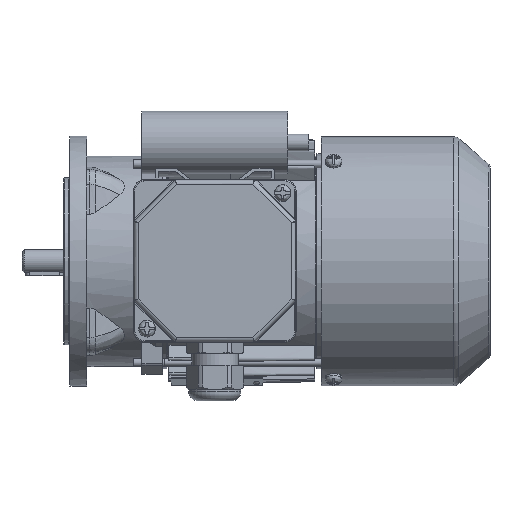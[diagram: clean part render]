
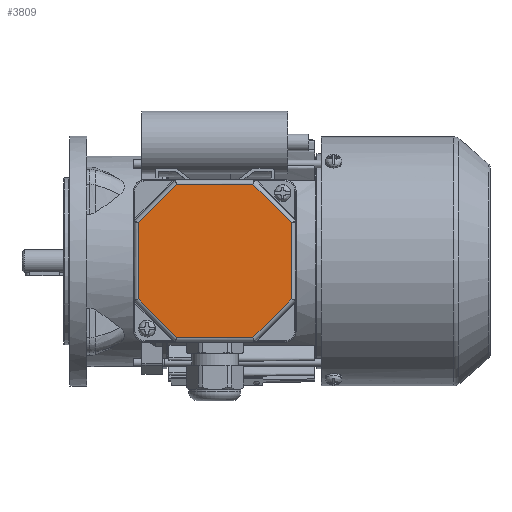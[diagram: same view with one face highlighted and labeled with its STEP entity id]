
A CAD part, top view. The second image highlights one B-rep face of the part: STEP entity #3809.
In plain terms, the highlighted planar face has unit normal (0, 0, 1).
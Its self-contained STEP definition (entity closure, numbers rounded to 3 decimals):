
#3809 = ADVANCED_FACE( '', ( #8244 ), #8245, .T. );
#8244 = FACE_OUTER_BOUND( '', #17796, .T. );
#8245 = PLANE( '', #17797 );
#17796 = EDGE_LOOP( '', ( #32660, #32661, #32662, #32663, #32664, #32665, #32666, #32667 ) );
#17797 = AXIS2_PLACEMENT_3D( '', #32668, #32669, #32670 );
#32660 = ORIENTED_EDGE( '', *, *, #45390, .T. );
#32661 = ORIENTED_EDGE( '', *, *, #45391, .T. );
#32662 = ORIENTED_EDGE( '', *, *, #45392, .T. );
#32663 = ORIENTED_EDGE( '', *, *, #45393, .T. );
#32664 = ORIENTED_EDGE( '', *, *, #45394, .T. );
#32665 = ORIENTED_EDGE( '', *, *, #45395, .T. );
#32666 = ORIENTED_EDGE( '', *, *, #45385, .T. );
#32667 = ORIENTED_EDGE( '', *, *, #44338, .T. );
#32668 = CARTESIAN_POINT( '', ( -39., 39., 12. ) );
#32669 = DIRECTION( '', ( 0., 0., 1. ) );
#32670 = DIRECTION( '', ( 1., 0., 0. ) );
#44338 = EDGE_CURVE( '', #53284, #53282, #53285, .T. );
#45385 = EDGE_CURVE( '', #54810, #53284, #54811, .F. );
#45390 = EDGE_CURVE( '', #53282, #54817, #54818, .F. );
#45391 = EDGE_CURVE( '', #54817, #54819, #54820, .T. );
#45392 = EDGE_CURVE( '', #54819, #54821, #54822, .F. );
#45393 = EDGE_CURVE( '', #54821, #53687, #54823, .T. );
#45394 = EDGE_CURVE( '', #53687, #54824, #54825, .F. );
#45395 = EDGE_CURVE( '', #54824, #54810, #54826, .T. );
#53282 = VERTEX_POINT( '', #67390 );
#53284 = VERTEX_POINT( '', #67392 );
#53285 = LINE( '', #67393, #67394 );
#53687 = VERTEX_POINT( '', #68353 );
#54810 = VERTEX_POINT( '', #71325 );
#54811 = LINE( '', #71326, #71327 );
#54817 = VERTEX_POINT( '', #71334 );
#54818 = LINE( '', #71335, #71336 );
#54819 = VERTEX_POINT( '', #71337 );
#54820 = LINE( '', #71338, #71339 );
#54821 = VERTEX_POINT( '', #71340 );
#54822 = LINE( '', #71341, #71342 );
#54823 = LINE( '', #71343, #71344 );
#54824 = VERTEX_POINT( '', #71345 );
#54825 = LINE( '', #71346, #71347 );
#54826 = LINE( '', #71348, #71349 );
#67390 = CARTESIAN_POINT( '', ( 36.825, -18.255, 12. ) );
#67392 = CARTESIAN_POINT( '', ( 18.255, -36.825, 12. ) );
#67393 = CARTESIAN_POINT( '', ( 37.401, -17.679, 12. ) );
#67394 = VECTOR( '', #81503, 1000. );
#68353 = CARTESIAN_POINT( '', ( -36.825, 18.255, 12. ) );
#71325 = CARTESIAN_POINT( '', ( -18.255, -36.825, 12. ) );
#71326 = CARTESIAN_POINT( '', ( 19.069, -36.825, 12. ) );
#71327 = VECTOR( '', #82670, 1000. );
#71334 = CARTESIAN_POINT( '', ( 36.825, 18.255, 12. ) );
#71335 = CARTESIAN_POINT( '', ( 36.825, 19.069, 12. ) );
#71336 = VECTOR( '', #82678, 1000. );
#71337 = CARTESIAN_POINT( '', ( 18.255, 36.825, 12. ) );
#71338 = CARTESIAN_POINT( '', ( 17.679, 37.401, 12. ) );
#71339 = VECTOR( '', #82679, 1000. );
#71340 = CARTESIAN_POINT( '', ( -18.255, 36.825, 12. ) );
#71341 = CARTESIAN_POINT( '', ( -19.069, 36.825, 12. ) );
#71342 = VECTOR( '', #82680, 1000. );
#71343 = CARTESIAN_POINT( '', ( -37.401, 17.679, 12. ) );
#71344 = VECTOR( '', #82681, 1000. );
#71345 = CARTESIAN_POINT( '', ( -36.825, -18.255, 12. ) );
#71346 = CARTESIAN_POINT( '', ( -36.825, -19.069, 12. ) );
#71347 = VECTOR( '', #82682, 1000. );
#71348 = CARTESIAN_POINT( '', ( -17.679, -37.401, 12. ) );
#71349 = VECTOR( '', #82683, 1000. );
#81503 = DIRECTION( '', ( 0.707, 0.707, 0. ) );
#82670 = DIRECTION( '', ( -1., 0., 0. ) );
#82678 = DIRECTION( '', ( 0., -1., 0. ) );
#82679 = DIRECTION( '', ( -0.707, 0.707, 0. ) );
#82680 = DIRECTION( '', ( 1., 0., 0. ) );
#82681 = DIRECTION( '', ( -0.707, -0.707, 0. ) );
#82682 = DIRECTION( '', ( 0., 1., 0. ) );
#82683 = DIRECTION( '', ( 0.707, -0.707, 0. ) );
